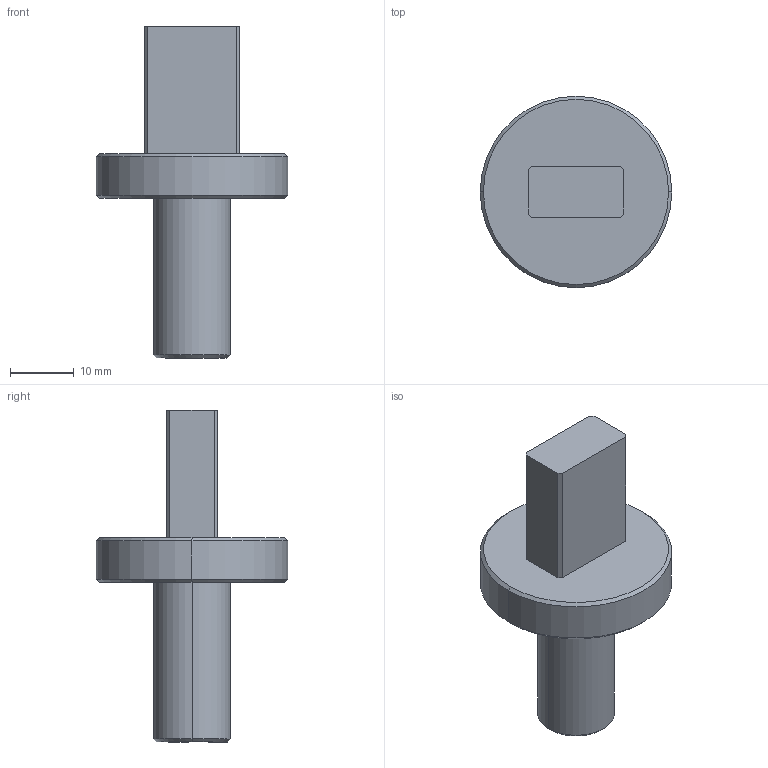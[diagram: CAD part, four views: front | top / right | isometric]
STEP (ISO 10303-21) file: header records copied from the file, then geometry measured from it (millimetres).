
FILE_DESCRIPTION(('CATIA V5 STEP Exchange'),'2;1');
FILE_NAME('D:\姚明阳\1、工装图纸\AGZ100\AGZ100.01_V1.stp','2023-06-06T03:45:11+00:00',('none'),('none'),'CATIA Version 5 Release 21 GA (IN-10)','CATIA V5 STEP AP214','none');
FILE_SCHEMA(('AUTOMOTIVE_DESIGN { 1 0 10303 214 1 1 1 1 }'));
Length unit declared in the file: millimetre
Products named in the file (1): GZ07.13_V1.1.2
Bounding box: 30 x 30 x 52 mm (x, y, z)
Volume: 10137.6 mm3; surface area: 3845.3 mm2
Topology: 1 solids, 1 shells, 22 faces, 48 edges, 30 vertices
Faces by surface type: plane 12, cone 6, cylinder 4
Entity records: 596 total; most frequent: CARTESIAN_POINT 99, ORIENTED_EDGE 96, DIRECTION 88, EDGE_CURVE 48, AXIS2_PLACEMENT_3D 35, VECTOR 34, LINE 34, VERTEX_POINT 30
